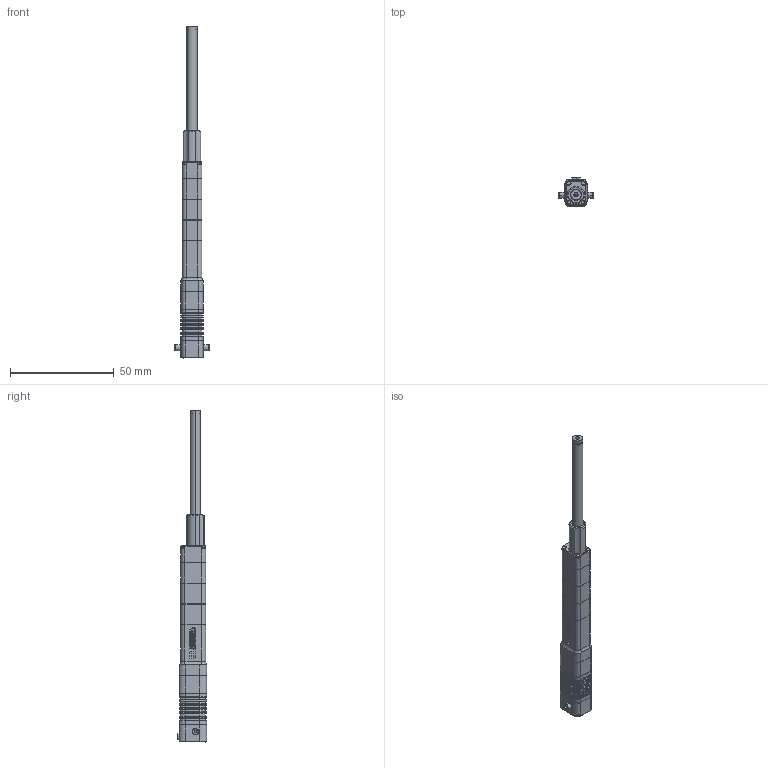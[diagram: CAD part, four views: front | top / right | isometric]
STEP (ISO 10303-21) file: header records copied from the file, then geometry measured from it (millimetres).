
FILE_DESCRIPTION (( 'STEP AP214' ), '1' );
FILE_NAME ('LA50-0x2D-俋楷.STEP', '2022-12-27T02:45:28', ( '' ), ( '' ), '', '', '' );
FILE_SCHEMA (( 'AUTOMOTIVE_DESIGN' ));
Length unit declared in the file: millimetre
Products named in the file (3): A820150-015芢裝-俋楷; LA50-0x2D-俋楷; 驱动器L50-2D外发
Assembly tree (2 placements, depth 2):
  LA50-0x2D-俋楷
    A820150-015芢裝-俋楷
    驱动器L50-2D外发
Bounding box: 16.4 x 14 x 160 mm (x, y, z)
Volume: 11951.9 mm3; surface area: 7303.1 mm2
Topology: 2 solids, 4 shells, 1637 faces, 4195 edges, 2693 vertices
Faces by surface type: plane 873, bspline 556, cylinder 146, cone 58, torus 4
Entity records: 62101 total; most frequent: CARTESIAN_POINT 25978, ORIENTED_EDGE 8386, DIRECTION 5601, EDGE_CURVE 4193, VECTOR 2725, LINE 2725, VERTEX_POINT 2693, EDGE_LOOP 1770
